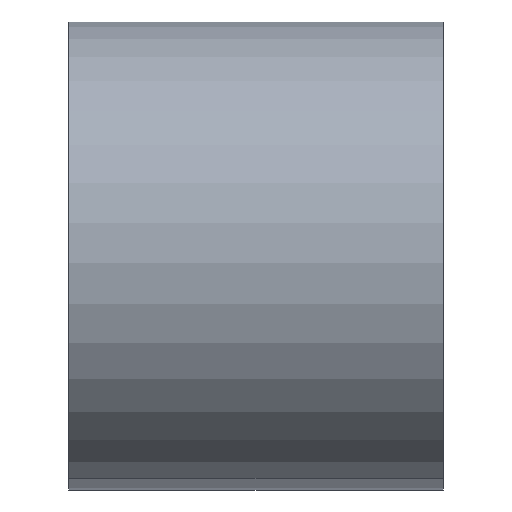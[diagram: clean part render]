
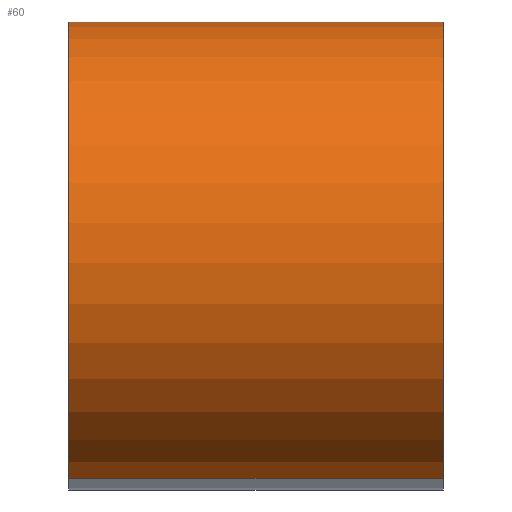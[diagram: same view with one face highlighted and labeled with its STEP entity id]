
A CAD part, left-side view. The second image highlights one B-rep face of the part: STEP entity #60.
In plain terms, the highlighted cylindrical face has radius 2.5 mm (diameter 5 mm), a partial arc.
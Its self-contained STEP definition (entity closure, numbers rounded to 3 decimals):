
#55=CYLINDRICAL_SURFACE('',#154,2.5);
#60=ADVANCED_FACE('',(#66),#55,.T.);
#66=FACE_OUTER_BOUND('',#75,.F.);
#75=EDGE_LOOP('',(#88,#89,#90,#91));
#88=ORIENTED_EDGE('',*,*,#115,.T.);
#89=ORIENTED_EDGE('',*,*,#121,.F.);
#90=ORIENTED_EDGE('',*,*,#124,.T.);
#91=ORIENTED_EDGE('',*,*,#122,.T.);
#108=LINE('',#211,#112);
#109=LINE('',#212,#113);
#112=VECTOR('',#173,4.);
#113=VECTOR('',#174,4.);
#115=EDGE_CURVE('',#140,#141,#127,.T.);
#121=EDGE_CURVE('',#135,#141,#108,.T.);
#122=EDGE_CURVE('',#134,#140,#109,.T.);
#124=EDGE_CURVE('',#135,#134,#132,.T.);
#127=CIRCLE('',#145,2.5);
#132=CIRCLE('',#150,2.5);
#134=VERTEX_POINT('',#196);
#135=VERTEX_POINT('',#197);
#140=VERTEX_POINT('',#202);
#141=VERTEX_POINT('',#203);
#145=AXIS2_PLACEMENT_3D('',#205,#163,#164);
#150=AXIS2_PLACEMENT_3D('',#214,#177,#178);
#154=AXIS2_PLACEMENT_3D('',#218,#185,#186);
#163=DIRECTION('',(0.,-1.,0.));
#164=DIRECTION('',(0.312,0.,0.95));
#173=DIRECTION('',(0.,-1.,0.));
#174=DIRECTION('',(0.,-1.,0.));
#177=DIRECTION('',(0.,1.,0.));
#178=DIRECTION('',(-0.312,0.,-0.95));
#185=DIRECTION('',(0.,-1.,0.));
#186=DIRECTION('',(0.394,0.,0.919));
#196=CARTESIAN_POINT('',(21.413,1.504,23.578));
#197=CARTESIAN_POINT('',(19.851,1.504,18.828));
#202=CARTESIAN_POINT('',(21.413,-2.496,23.578));
#203=CARTESIAN_POINT('',(19.851,-2.496,18.828));
#205=CARTESIAN_POINT('',(20.632,-2.496,21.203));
#211=CARTESIAN_POINT('',(19.851,1.504,18.828));
#212=CARTESIAN_POINT('',(21.413,1.504,23.578));
#214=CARTESIAN_POINT('',(20.632,1.504,21.203));
#218=CARTESIAN_POINT('',(20.632,-2.696,21.203));
